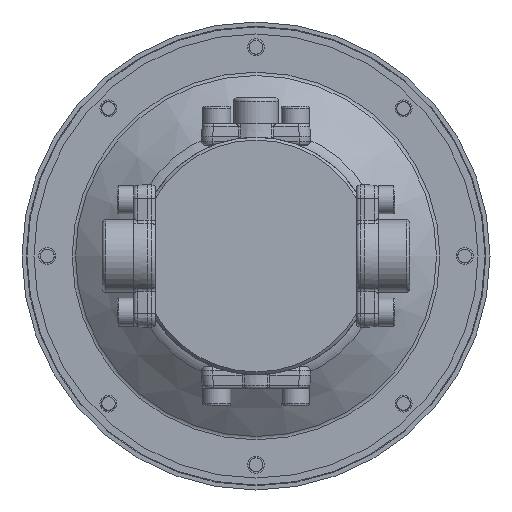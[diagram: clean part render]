
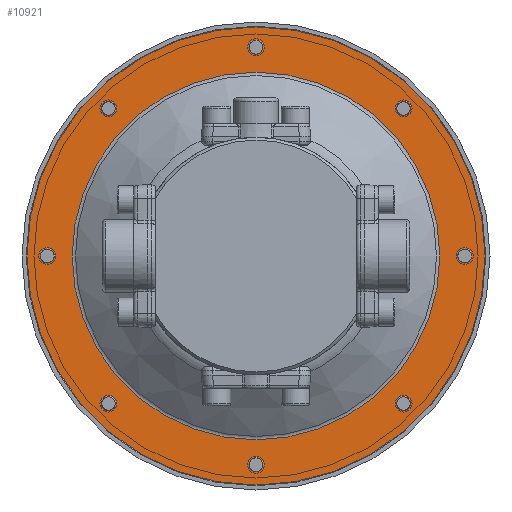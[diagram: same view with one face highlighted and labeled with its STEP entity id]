
A CAD part, front view. The second image highlights one B-rep face of the part: STEP entity #10921.
In plain terms, the highlighted planar face has unit normal (0, -1, 0).
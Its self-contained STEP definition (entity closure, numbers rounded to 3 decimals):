
#952=FACE_BOUND('',#3211,.T.);
#953=FACE_BOUND('',#3212,.T.);
#954=FACE_BOUND('',#3213,.T.);
#955=FACE_BOUND('',#3214,.T.);
#956=FACE_BOUND('',#3215,.T.);
#957=FACE_BOUND('',#3216,.T.);
#958=FACE_BOUND('',#3217,.T.);
#959=FACE_BOUND('',#3218,.T.);
#960=FACE_BOUND('',#3219,.T.);
#1574=CIRCLE('',#12446,2.459);
#1575=CIRCLE('',#12448,2.459);
#1576=CIRCLE('',#12450,2.459);
#1577=CIRCLE('',#12452,2.459);
#1578=CIRCLE('',#12454,2.459);
#1579=CIRCLE('',#12456,2.459);
#1580=CIRCLE('',#12458,2.459);
#1581=CIRCLE('',#12460,2.459);
#1583=CIRCLE('',#12464,81.5);
#1584=CIRCLE('',#12466,65.402);
#1902=PLANE('',#12465);
#2463=FACE_OUTER_BOUND('',#3210,.T.);
#3210=EDGE_LOOP('',(#9605));
#3211=EDGE_LOOP('',(#9606));
#3212=EDGE_LOOP('',(#9607));
#3213=EDGE_LOOP('',(#9608));
#3214=EDGE_LOOP('',(#9609));
#3215=EDGE_LOOP('',(#9610));
#3216=EDGE_LOOP('',(#9611));
#3217=EDGE_LOOP('',(#9612));
#3218=EDGE_LOOP('',(#9613));
#3219=EDGE_LOOP('',(#9614));
#5344=VERTEX_POINT('',#21650);
#5345=VERTEX_POINT('',#21654);
#5346=VERTEX_POINT('',#21658);
#5347=VERTEX_POINT('',#21662);
#5348=VERTEX_POINT('',#21666);
#5349=VERTEX_POINT('',#21670);
#5350=VERTEX_POINT('',#21674);
#5351=VERTEX_POINT('',#21678);
#5353=VERTEX_POINT('',#21685);
#5354=VERTEX_POINT('',#21689);
#6780=EDGE_CURVE('',#5344,#5344,#1574,.T.);
#6782=EDGE_CURVE('',#5345,#5345,#1575,.T.);
#6784=EDGE_CURVE('',#5346,#5346,#1576,.T.);
#6786=EDGE_CURVE('',#5347,#5347,#1577,.T.);
#6788=EDGE_CURVE('',#5348,#5348,#1578,.T.);
#6790=EDGE_CURVE('',#5349,#5349,#1579,.T.);
#6792=EDGE_CURVE('',#5350,#5350,#1580,.T.);
#6794=EDGE_CURVE('',#5351,#5351,#1581,.T.);
#6797=EDGE_CURVE('',#5353,#5353,#1583,.T.);
#6799=EDGE_CURVE('',#5354,#5354,#1584,.T.);
#9605=ORIENTED_EDGE('',*,*,#6797,.T.);
#9606=ORIENTED_EDGE('',*,*,#6782,.T.);
#9607=ORIENTED_EDGE('',*,*,#6794,.T.);
#9608=ORIENTED_EDGE('',*,*,#6790,.T.);
#9609=ORIENTED_EDGE('',*,*,#6786,.T.);
#9610=ORIENTED_EDGE('',*,*,#6788,.T.);
#9611=ORIENTED_EDGE('',*,*,#6792,.T.);
#9612=ORIENTED_EDGE('',*,*,#6784,.T.);
#9613=ORIENTED_EDGE('',*,*,#6780,.T.);
#9614=ORIENTED_EDGE('',*,*,#6799,.F.);
#10921=ADVANCED_FACE('',(#2463,#952,#953,#954,#955,#956,#957,#958,#959,
#960),#1902,.T.);
#12446=AXIS2_PLACEMENT_3D('',#21651,#15254,#15255);
#12448=AXIS2_PLACEMENT_3D('',#21655,#15259,#15260);
#12450=AXIS2_PLACEMENT_3D('',#21659,#15264,#15265);
#12452=AXIS2_PLACEMENT_3D('',#21663,#15269,#15270);
#12454=AXIS2_PLACEMENT_3D('',#21667,#15274,#15275);
#12456=AXIS2_PLACEMENT_3D('',#21671,#15279,#15280);
#12458=AXIS2_PLACEMENT_3D('',#21675,#15284,#15285);
#12460=AXIS2_PLACEMENT_3D('',#21679,#15289,#15290);
#12464=AXIS2_PLACEMENT_3D('',#21686,#15298,#15299);
#12465=AXIS2_PLACEMENT_3D('',#21688,#15301,#15302);
#12466=AXIS2_PLACEMENT_3D('',#21690,#15303,#15304);
#15254=DIRECTION('center_axis',(0.,1.,0.));
#15255=DIRECTION('ref_axis',(1.,0.,0.));
#15259=DIRECTION('center_axis',(0.,1.,0.));
#15260=DIRECTION('ref_axis',(1.,0.,0.));
#15264=DIRECTION('center_axis',(0.,1.,0.));
#15265=DIRECTION('ref_axis',(1.,0.,0.));
#15269=DIRECTION('center_axis',(0.,1.,0.));
#15270=DIRECTION('ref_axis',(1.,0.,0.));
#15274=DIRECTION('center_axis',(0.,1.,0.));
#15275=DIRECTION('ref_axis',(1.,0.,0.));
#15279=DIRECTION('center_axis',(0.,1.,0.));
#15280=DIRECTION('ref_axis',(1.,0.,0.));
#15284=DIRECTION('center_axis',(0.,1.,0.));
#15285=DIRECTION('ref_axis',(1.,0.,0.));
#15289=DIRECTION('center_axis',(0.,1.,0.));
#15290=DIRECTION('ref_axis',(1.,0.,0.));
#15298=DIRECTION('center_axis',(0.,-1.,0.));
#15299=DIRECTION('ref_axis',(1.,0.,0.));
#15301=DIRECTION('center_axis',(0.,-1.,0.));
#15302=DIRECTION('ref_axis',(0.,0.,
-1.));
#15303=DIRECTION('center_axis',(0.,-1.,0.));
#15304=DIRECTION('ref_axis',(1.,0.,0.));
#21650=CARTESIAN_POINT('',(50.044,16.,52.503));
#21651=CARTESIAN_POINT('Origin',(52.503,16.,52.503));
#21654=CARTESIAN_POINT('',(-54.961,16.,52.503));
#21655=CARTESIAN_POINT('Origin',(-52.503,16.,52.503));
#21658=CARTESIAN_POINT('',(-76.709,16.,0.));
#21659=CARTESIAN_POINT('Origin',(-74.25,16.,0.));
#21662=CARTESIAN_POINT('',(-2.459,16.,74.25));
#21663=CARTESIAN_POINT('Origin',(0.,16.,74.25));
#21666=CARTESIAN_POINT('',(71.792,16.,0.));
#21667=CARTESIAN_POINT('Origin',(74.25,16.,0.));
#21670=CARTESIAN_POINT('',(50.044,16.,-52.503));
#21671=CARTESIAN_POINT('Origin',(52.503,16.,-52.503));
#21674=CARTESIAN_POINT('',(-2.459,16.,-74.25));
#21675=CARTESIAN_POINT('Origin',(0.,16.,-74.25));
#21678=CARTESIAN_POINT('',(-54.961,16.,-52.503));
#21679=CARTESIAN_POINT('Origin',(-52.503,16.,-52.503));
#21685=CARTESIAN_POINT('',(-81.5,16.,0.));
#21686=CARTESIAN_POINT('Origin',(0.,16.,0.));
#21688=CARTESIAN_POINT('Origin',(65.402,16.,0.));
#21689=CARTESIAN_POINT('',(0.,16.,65.402));
#21690=CARTESIAN_POINT('Origin',(0.,16.,0.));
